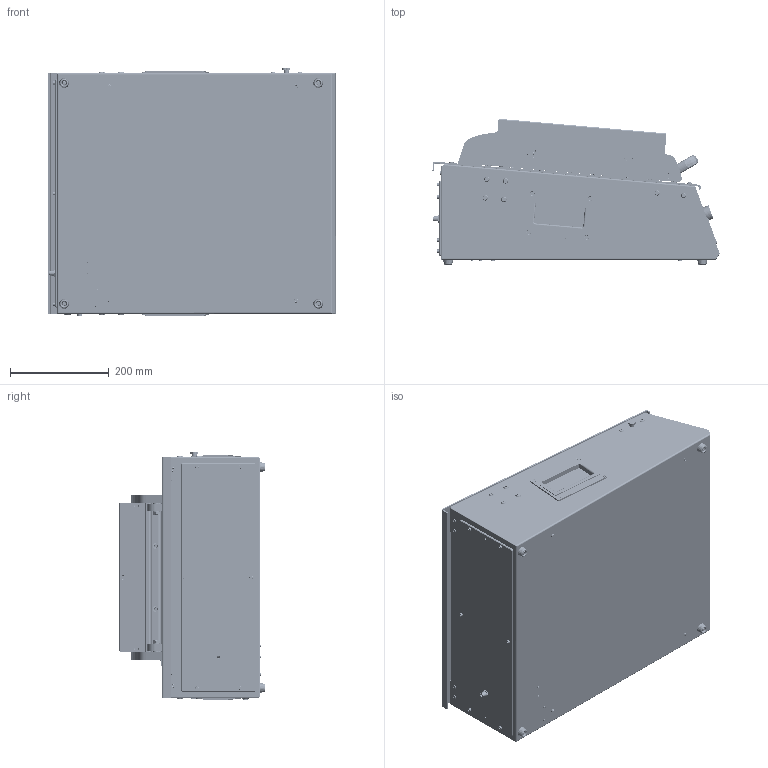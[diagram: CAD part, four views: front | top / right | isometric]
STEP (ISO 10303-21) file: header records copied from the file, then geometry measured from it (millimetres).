
FILE_DESCRIPTION (( 'STEP AP214' ), '1' );
FILE_NAME ('ARF-UPe-P-NSHA2-P&P - fermé.STEP', '2026-09-29T07:40:42', ( '' ), ( '' ), 'SwSTEP 2.0', 'SolidWorks 2015', '' );
FILE_SCHEMA (( 'AUTOMOTIVE_DESIGN' ));
Length unit declared in the file: millimetre
Products named in the file (179): 8122_121; RM_3; 8122_371; 8122_113_version C; 143004_10; zb5-az102; CIR_EXT_D5.6; 8122_202; 8122_159; 8122_172; 54-1-3029_01; el_d3x5; KQ2E06-00NJ; Tête moltée M5; 8122_001 - STEP; Poignée_low_cost; 22-27-2021; RM_5; F Torx 06x18; 8122_111; 8122_161; chc_03x10; V-15-1CQ; F Torx 04x30; 8122_112_version C; C8525-60_ROD; contre partie aimant Ø7; F Torx 03x12; pression ESD; 8122_005 - STEP; gd4x14; poignée pliable; I-032B; 8122_158 - STEP_Version D; 8122_125; 8122_151_VERSION B; RL_3_ep1; el_d5x5; 54-1-3029_02; 8122_144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
Assembly tree (533 placements, depth 5):
  ARF-UPe-P-NSHA2-P&P - fermé
    8122_002
      8122_125
        8122_125
        eac_m4  x24
        eac_m5  x4
      8122_007_Version C
        8122_112_version C
        8122_113_version C
        Tête moltée M5
        ASR_T030180172L
        M05 Hu
        F Torx 04x14  x2
        chc_05x40
        Rd Cuv pleine M4  x2
        el_d5x5
        gd5x20
        gd4x20
      8122_162  x2
      8131_110 (PlaqueID)
      8122_161  x2
      poignée pliable  x2
      048_2000_114_07  x4
      54-1-3029_01  x2
      CIR_EXT_D5.6  x2
      chc_02,5x20  x2
      M02.5 h  x2
      M03 Hu
      F Torx 03x12
      az_03
      Rd Cuv pleine M4  x8
      F Torx 04x18  x8
      F Torx 04x08  x8
      F Torx 05x08  x4
      TCBL TORX M4X10  x2
      RM_4  x2
      RIVET 3 COURT  x4
      chc_04x08  x4
      8007_043_
        SY5120_5LZD_01
        AN110_01  x2
        KQ2L06-01NS  x3
      pression ESD
      AS1002F-06A  x2
      230-6322
      KQ2U06800A  x2
      8007_042
        8007_070
          8007_700
          22-27-2021  x2
          22-27-2031
        ehff_3x10  x2
        chc_03x06  x4
    8122_003 - STEP_Ferm‚
      8122_005 - STEP
        8122_107 - STEP
          8122_107
          eac_m5  x4
          eac_m4  x6
        8122_130  x2
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Bounding box: 582.48 x 296.2 x 503 mm (x, y, z)
Volume: 9261811 mm3; surface area: 4379339.1 mm2
Topology: 530 solids, 684 shells, 18047 faces, 45224 edges, 29009 vertices
Faces by surface type: cylinder 7532, plane 7006, cone 2570, torus 550, bspline 337, sphere 52
Entity records: 296309 total; most frequent: CARTESIAN_POINT 70478, DIRECTION 43121, ORIENTED_EDGE 40907, EDGE_CURVE 20690, AXIS2_PLACEMENT_3D 15876, VERTEX_POINT 13469, VECTOR 11369, LINE 11369
